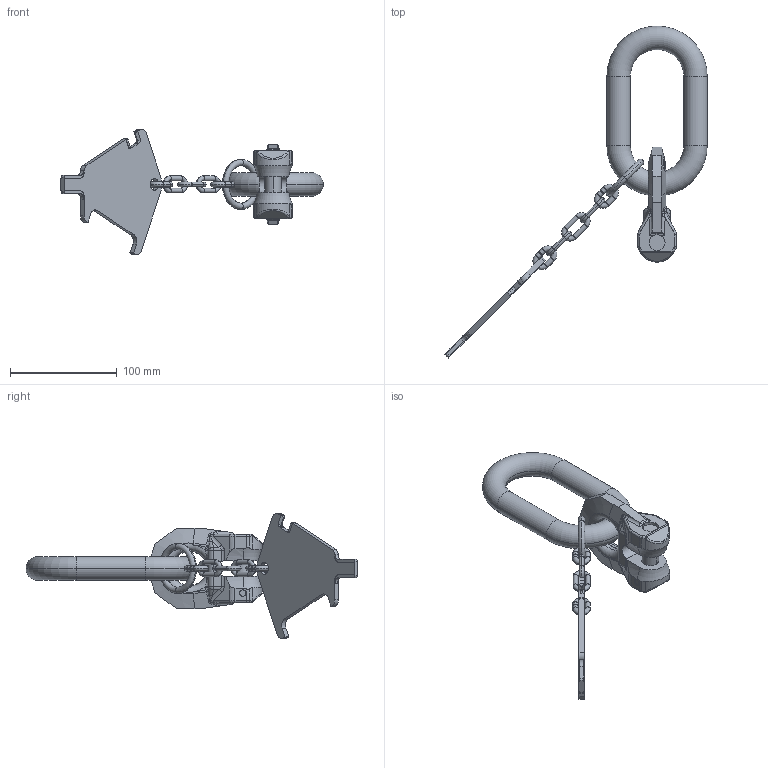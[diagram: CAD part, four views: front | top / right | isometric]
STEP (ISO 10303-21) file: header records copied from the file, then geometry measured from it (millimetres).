
FILE_DESCRIPTION((''),'2;1');
FILE_NAME('001-M34472-P-4_ASM','2014-10-14T',('Andreas.Wendler'),(''),'PRO/ENGINEER BY PARAMETRIC TECHNOLOGY CORPORATION, 2010140','PRO/ENGINEER BY PARAMETRIC TECHNOLOGY CORPORATION, 2010140','');
FILE_SCHEMA(('CONFIG_CONTROL_DESIGN'));
Length unit declared in the file: millimetre
Products named in the file (9): 001-M34472-P-4; 001-M31128-V01; 001-M31558-P-1; 001-M31129-P-1; 001-M33743-001; 001-M31130-003_ASM; 001-M31558-P-1_ASM; 001-M31492-P-3; 001-M34472-P-4_ASM
Assembly tree (11 placements, depth 4):
  001-M34472-P-4_ASM
    001-M34472-P-4
    001-M31128-V01
    001-M31558-P-1_ASM
      001-M31558-P-1
      001-M31129-P-1  x2
      001-M31130-003_ASM
        001-M33743-001  x3
    001-M31492-P-3
Bounding box: 245.7 x 310.7 x 116.81 mm (x, y, z)
Volume: 291011.4 mm3; surface area: 69189.7 mm2
Topology: 9 solids, 9 shells, 557 faces, 1445 edges, 906 vertices
Faces by surface type: plane 299, cylinder 132, bspline 56, torus 46, cone 16, sphere 8
Entity records: 19017 total; most frequent: CARTESIAN_POINT 6908, ORIENTED_EDGE 2782, DIRECTION 2086, EDGE_CURVE 1391, VERTEX_POINT 878, AXIS2_PLACEMENT_3D 784, B_SPLINE_CURVE_WITH_KNOTS 589, EDGE_LOOP 545
